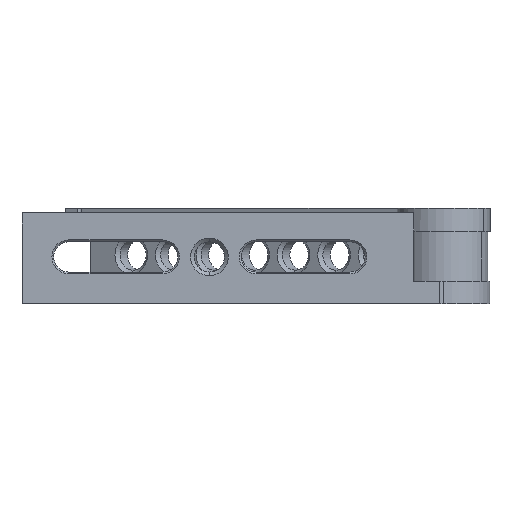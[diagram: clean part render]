
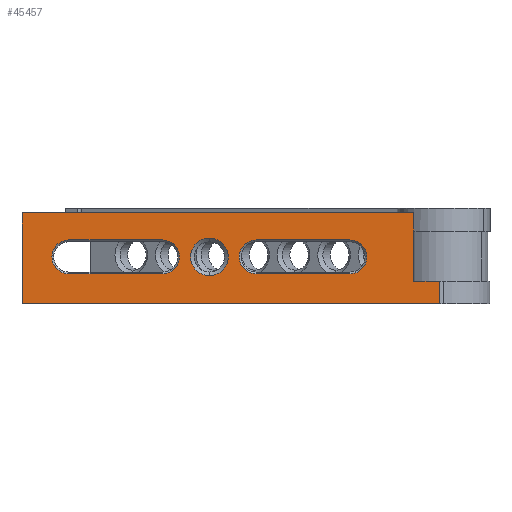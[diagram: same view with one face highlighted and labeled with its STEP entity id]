
A CAD part, front view. The second image highlights one B-rep face of the part: STEP entity #45457.
In plain terms, the highlighted planar face has unit normal (0, -1, 0).
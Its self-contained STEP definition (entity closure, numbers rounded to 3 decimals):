
#303 = EDGE_LOOP ( 'NONE', ( #49177, #52732 ) ) ;
#645 = EDGE_CURVE ( 'NONE', #42224, #39080, #8768, .T. ) ;
#1048 = CIRCLE ( 'NONE', #53580, 10.05 ) ;
#1597 = EDGE_CURVE ( 'NONE', #11530, #55149, #20393, .T. ) ;
#1699 = LINE ( 'NONE', #3154, #52622 ) ;
#1838 = FACE_BOUND ( 'NONE', #303, .T. ) ;
#2035 = VECTOR ( 'NONE', #47824, 1000. ) ;
#3154 = CARTESIAN_POINT ( 'NONE',  ( -225., -25., 12. ) ) ;
#4059 = CIRCLE ( 'NONE', #14735, 9.05 ) ;
#4060 = VERTEX_POINT ( 'NONE', #9941 ) ;
#4122 = ORIENTED_EDGE ( 'NONE', *, *, #26670, .T. ) ;
#4602 = AXIS2_PLACEMENT_3D ( 'NONE', #45211, #20627, #55142 ) ;
#5890 = CARTESIAN_POINT ( 'NONE',  ( -50., -25., 15.95 ) ) ;
#6624 = CARTESIAN_POINT ( 'NONE',  ( -225., -25., 48.5 ) ) ;
#6996 = VECTOR ( 'NONE', #48401, 1000. ) ;
#7124 = EDGE_CURVE ( 'NONE', #14954, #13156, #9221, .T. ) ;
#7400 = EDGE_CURVE ( 'NONE', #61610, #59591, #37789, .T. ) ;
#7472 = VERTEX_POINT ( 'NONE', #43704 ) ;
#7691 = ORIENTED_EDGE ( 'NONE', *, *, #23750, .F. ) ;
#8467 = VERTEX_POINT ( 'NONE', #37536 ) ;
#8654 = DIRECTION ( 'NONE',  ( 0., 0., 1. ) ) ;
#8768 = CIRCLE ( 'NONE', #29489, 10.05 ) ;
#9216 = AXIS2_PLACEMENT_3D ( 'NONE', #13723, #48262, #18712 ) ;
#9221 = LINE ( 'NONE', #16124, #33937 ) ;
#9941 = CARTESIAN_POINT ( 'NONE',  ( -2.222, -25., 12. ) ) ;
#10314 = VECTOR ( 'NONE', #8654, 1000. ) ;
#10383 = VECTOR ( 'NONE', #36202, 1000. ) ;
#10486 = CARTESIAN_POINT ( 'NONE',  ( -100., -25., 34.05 ) ) ;
#10511 = CARTESIAN_POINT ( 'NONE',  ( -225., -25., 0. ) ) ;
#11530 = VERTEX_POINT ( 'NONE', #5890 ) ;
#12647 = VERTEX_POINT ( 'NONE', #10511 ) ;
#12789 = CARTESIAN_POINT ( 'NONE',  ( -125., -25., 25. ) ) ;
#12835 = DIRECTION ( 'NONE',  ( 1., 0., 0. ) ) ;
#13156 = VERTEX_POINT ( 'NONE', #27125 ) ;
#13723 = CARTESIAN_POINT ( 'NONE',  ( -150., -25., 25. ) ) ;
#14735 = AXIS2_PLACEMENT_3D ( 'NONE', #57645, #28059, #62605 ) ;
#14949 = FACE_BOUND ( 'NONE', #18098, .T. ) ;
#14954 = VERTEX_POINT ( 'NONE', #55303 ) ;
#15131 = LINE ( 'NONE', #18280, #2035 ) ;
#15937 = CARTESIAN_POINT ( 'NONE',  ( -200., -25., 15.95 ) ) ;
#16124 = CARTESIAN_POINT ( 'NONE',  ( -16., -25., 48.5 ) ) ;
#16773 = DIRECTION ( 'NONE',  ( 0., 1., 0. ) ) ;
#17230 = DIRECTION ( 'NONE',  ( 0., 1., 0. ) ) ;
#17762 = DIRECTION ( 'NONE',  ( 0., 0., -1. ) ) ;
#18098 = EDGE_LOOP ( 'NONE', ( #29943, #40986, #28621, #30846 ) ) ;
#18280 = CARTESIAN_POINT ( 'NONE',  ( -50., -25., 34.05 ) ) ;
#18712 = DIRECTION ( 'NONE',  ( 0., 0., -1. ) ) ;
#18813 = VECTOR ( 'NONE', #58548, 1000. ) ;
#18865 = CARTESIAN_POINT ( 'NONE',  ( -200., -25., 15.95 ) ) ;
#19347 = EDGE_LOOP ( 'NONE', ( #4122, #55560, #44515, #26174 ) ) ;
#20046 = DIRECTION ( 'NONE',  ( 0., 1., 0. ) ) ;
#20393 = LINE ( 'NONE', #49584, #45074 ) ;
#20627 = DIRECTION ( 'NONE',  ( 0., -1., 0. ) ) ;
#21569 = DIRECTION ( 'NONE',  ( 1., 0., 0. ) ) ;
#21741 = EDGE_CURVE ( 'NONE', #8467, #11530, #33969, .T. ) ;
#23750 = EDGE_CURVE ( 'NONE', #13156, #4060, #1699, .T. ) ;
#23846 = CARTESIAN_POINT ( 'NONE',  ( -200., -25., 34.05 ) ) ;
#24606 = EDGE_CURVE ( 'NONE', #7472, #44976, #33257, .T. ) ;
#25333 = CARTESIAN_POINT ( 'NONE',  ( -225., -25., 48.5 ) ) ;
#26159 = CARTESIAN_POINT ( 'NONE',  ( -125., -25., 35.05 ) ) ;
#26174 = ORIENTED_EDGE ( 'NONE', *, *, #24606, .T. ) ;
#26504 = FACE_OUTER_BOUND ( 'NONE', #43617, .T. ) ;
#26529 = LINE ( 'NONE', #33266, #10314 ) ;
#26670 = EDGE_CURVE ( 'NONE', #44976, #61610, #54015, .T. ) ;
#26915 = CARTESIAN_POINT ( 'NONE',  ( -125., -25., 14.95 ) ) ;
#27125 = CARTESIAN_POINT ( 'NONE',  ( -16., -25., 12. ) ) ;
#28059 = DIRECTION ( 'NONE',  ( 0., 1., 0. ) ) ;
#28621 = ORIENTED_EDGE ( 'NONE', *, *, #21741, .T. ) ;
#29489 = AXIS2_PLACEMENT_3D ( 'NONE', #46325, #16773, #51292 ) ;
#29516 = VECTOR ( 'NONE', #21569, 1000. ) ;
#29943 = ORIENTED_EDGE ( 'NONE', *, *, #38192, .T. ) ;
#29984 = DIRECTION ( 'NONE',  ( -1., 0., 0. ) ) ;
#30247 = CIRCLE ( 'NONE', #9216, 9.05 ) ;
#30846 = ORIENTED_EDGE ( 'NONE', *, *, #1597, .T. ) ;
#31819 = EDGE_CURVE ( 'NONE', #60098, #12647, #45053, .T. ) ;
#32581 = LINE ( 'NONE', #51091, #29516 ) ;
#32871 = VERTEX_POINT ( 'NONE', #57956 ) ;
#33257 = LINE ( 'NONE', #18865, #6996 ) ;
#33266 = CARTESIAN_POINT ( 'NONE',  ( -2.222, -25., 12. ) ) ;
#33937 = VECTOR ( 'NONE', #40748, 1000. ) ;
#33969 = CIRCLE ( 'NONE', #34763, 9.05 ) ;
#34763 = AXIS2_PLACEMENT_3D ( 'NONE', #49574, #20046, #54551 ) ;
#35259 = EDGE_CURVE ( 'NONE', #45424, #8467, #15131, .T. ) ;
#36202 = DIRECTION ( 'NONE',  ( 1., 0., 0. ) ) ;
#36253 = VECTOR ( 'NONE', #12835, 1000. ) ;
#36830 = ORIENTED_EDGE ( 'NONE', *, *, #31819, .T. ) ;
#37363 = ORIENTED_EDGE ( 'NONE', *, *, #61951, .T. ) ;
#37536 = CARTESIAN_POINT ( 'NONE',  ( -50., -25., 34.05 ) ) ;
#37583 = EDGE_CURVE ( 'NONE', #39080, #42224, #1048, .T. ) ;
#37789 = LINE ( 'NONE', #52345, #36253 ) ;
#38192 = EDGE_CURVE ( 'NONE', #55149, #45424, #4059, .T. ) ;
#38805 = CARTESIAN_POINT ( 'NONE',  ( -150., -25., 34.05 ) ) ;
#39080 = VERTEX_POINT ( 'NONE', #26159 ) ;
#39670 = FACE_BOUND ( 'NONE', #19347, .T. ) ;
#40266 = PLANE ( 'NONE',  #4602 ) ;
#40748 = DIRECTION ( 'NONE',  ( 0., 0., -1. ) ) ;
#40803 = ORIENTED_EDGE ( 'NONE', *, *, #47688, .T. ) ;
#40986 = ORIENTED_EDGE ( 'NONE', *, *, #35259, .T. ) ;
#42224 = VERTEX_POINT ( 'NONE', #26915 ) ;
#43617 = EDGE_LOOP ( 'NONE', ( #40803, #37363, #7691, #55337, #51057, #36830 ) ) ;
#43704 = CARTESIAN_POINT ( 'NONE',  ( -150., -25., 15.95 ) ) ;
#44017 = CARTESIAN_POINT ( 'NONE',  ( -225., -25., 0. ) ) ;
#44515 = ORIENTED_EDGE ( 'NONE', *, *, #48025, .T. ) ;
#44976 = VERTEX_POINT ( 'NONE', #15937 ) ;
#45053 = LINE ( 'NONE', #44017, #18813 ) ;
#45074 = VECTOR ( 'NONE', #29984, 1000. ) ;
#45211 = CARTESIAN_POINT ( 'NONE',  ( -225., -25., 0. ) ) ;
#45424 = VERTEX_POINT ( 'NONE', #10486 ) ;
#45457 = ADVANCED_FACE ( 'NONE', ( #1838, #14949, #39670, #26504 ), #40266, .T. ) ;
#46325 = CARTESIAN_POINT ( 'NONE',  ( -125., -25., 25. ) ) ;
#46787 = CARTESIAN_POINT ( 'NONE',  ( -200., -25., 25. ) ) ;
#47336 = DIRECTION ( 'NONE',  ( 0., 1., 0. ) ) ;
#47688 = EDGE_CURVE ( 'NONE', #12647, #32871, #32581, .T. ) ;
#47824 = DIRECTION ( 'NONE',  ( 1., 0., 0. ) ) ;
#48025 = EDGE_CURVE ( 'NONE', #59591, #7472, #30247, .T. ) ;
#48262 = DIRECTION ( 'NONE',  ( 0., 1., 0. ) ) ;
#48401 = DIRECTION ( 'NONE',  ( -1., 0., 0. ) ) ;
#48528 = AXIS2_PLACEMENT_3D ( 'NONE', #46787, #17230, #51751 ) ;
#49177 = ORIENTED_EDGE ( 'NONE', *, *, #645, .T. ) ;
#49257 = CARTESIAN_POINT ( 'NONE',  ( -100., -25., 15.95 ) ) ;
#49574 = CARTESIAN_POINT ( 'NONE',  ( -50., -25., 25. ) ) ;
#49584 = CARTESIAN_POINT ( 'NONE',  ( -100., -25., 15.95 ) ) ;
#51057 = ORIENTED_EDGE ( 'NONE', *, *, #51060, .F. ) ;
#51060 = EDGE_CURVE ( 'NONE', #60098, #14954, #62912, .T. ) ;
#51091 = CARTESIAN_POINT ( 'NONE',  ( -225., -25., 0. ) ) ;
#51292 = DIRECTION ( 'NONE',  ( 0., 0., -1. ) ) ;
#51751 = DIRECTION ( 'NONE',  ( 0., 0., -1. ) ) ;
#52345 = CARTESIAN_POINT ( 'NONE',  ( -150., -25., 34.05 ) ) ;
#52552 = DIRECTION ( 'NONE',  ( 1., 0., 0. ) ) ;
#52622 = VECTOR ( 'NONE', #52552, 1000. ) ;
#52732 = ORIENTED_EDGE ( 'NONE', *, *, #37583, .T. ) ;
#53580 = AXIS2_PLACEMENT_3D ( 'NONE', #12789, #47336, #17762 ) ;
#54015 = CIRCLE ( 'NONE', #48528, 9.05 ) ;
#54551 = DIRECTION ( 'NONE',  ( 0., 0., -1. ) ) ;
#55142 = DIRECTION ( 'NONE',  ( 0., 0., -1. ) ) ;
#55149 = VERTEX_POINT ( 'NONE', #49257 ) ;
#55303 = CARTESIAN_POINT ( 'NONE',  ( -16., -25., 48.5 ) ) ;
#55337 = ORIENTED_EDGE ( 'NONE', *, *, #7124, .F. ) ;
#55560 = ORIENTED_EDGE ( 'NONE', *, *, #7400, .T. ) ;
#57645 = CARTESIAN_POINT ( 'NONE',  ( -100., -25., 25. ) ) ;
#57956 = CARTESIAN_POINT ( 'NONE',  ( -2.222, -25., 0. ) ) ;
#58548 = DIRECTION ( 'NONE',  ( 0., 0., -1. ) ) ;
#59591 = VERTEX_POINT ( 'NONE', #38805 ) ;
#60098 = VERTEX_POINT ( 'NONE', #25333 ) ;
#61610 = VERTEX_POINT ( 'NONE', #23846 ) ;
#61951 = EDGE_CURVE ( 'NONE', #32871, #4060, #26529, .T. ) ;
#62605 = DIRECTION ( 'NONE',  ( 0., 0., -1. ) ) ;
#62912 = LINE ( 'NONE', #6624, #10383 ) ;
